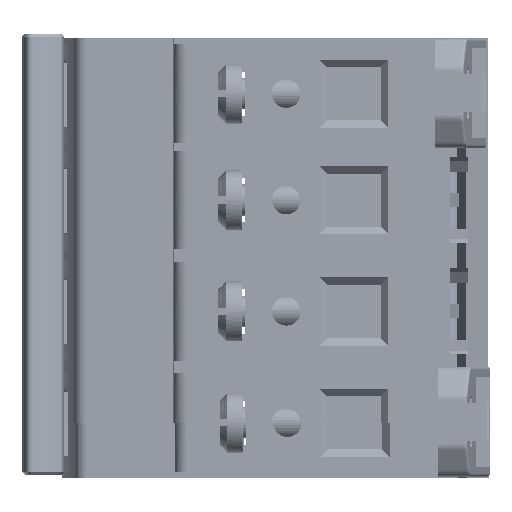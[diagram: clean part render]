
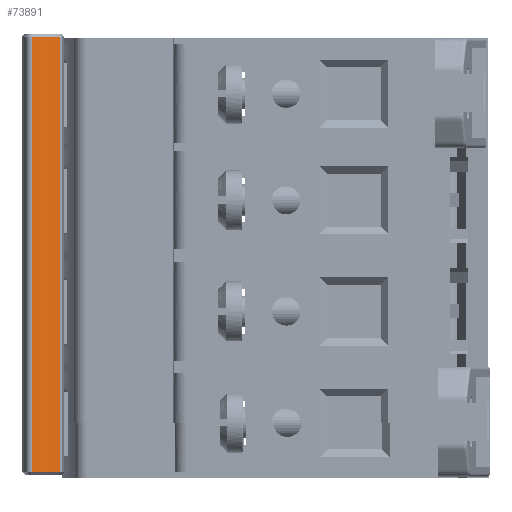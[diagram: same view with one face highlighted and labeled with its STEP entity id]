
A CAD part, left-side view. The second image highlights one B-rep face of the part: STEP entity #73891.
In plain terms, the highlighted cylindrical face has radius 8.97 mm (diameter 17.94 mm), a partial arc.
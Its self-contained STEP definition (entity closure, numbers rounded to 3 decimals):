
#96 = AXIS2_PLACEMENT_3D ( 'NONE', #80708, #29883, #89271 ) ;
#775 = VERTEX_POINT ( 'NONE', #17511 ) ;
#14813 = VECTOR ( 'NONE', #34784, 1000. ) ;
#16964 = DIRECTION ( 'NONE',  ( 0., 0., 1. ) ) ;
#17511 = CARTESIAN_POINT ( 'NONE',  ( 69.3, 7.409, 4.531 ) ) ;
#25543 = VERTEX_POINT ( 'NONE', #44157 ) ;
#28100 = CARTESIAN_POINT ( 'NONE',  ( 0.5, 2.696, 5.869 ) ) ;
#29852 = EDGE_LOOP ( 'NONE', ( #99214, #39726, #97697, #37108 ) ) ;
#29883 = DIRECTION ( 'NONE',  ( 1., 0., 0. ) ) ;
#30841 = DIRECTION ( 'NONE',  ( -1., 0., 0. ) ) ;
#34784 = DIRECTION ( 'NONE',  ( -1., 0., 0. ) ) ;
#37108 = ORIENTED_EDGE ( 'NONE', *, *, #56394, .T. ) ;
#37391 = CARTESIAN_POINT ( 'NONE',  ( 69.3, 2.696, 5.869 ) ) ;
#39726 = ORIENTED_EDGE ( 'NONE', *, *, #77987, .T. ) ;
#44157 = CARTESIAN_POINT ( 'NONE',  ( 0.5, 7.409, 4.531 ) ) ;
#46761 = VECTOR ( 'NONE', #92536, 1000. ) ;
#50053 = CIRCLE ( 'NONE', #96, 8.97 ) ;
#53472 = VERTEX_POINT ( 'NONE', #28100 ) ;
#56394 = EDGE_CURVE ( 'NONE', #25543, #53472, #50053, .T. ) ;
#66739 = CYLINDRICAL_SURFACE ( 'NONE', #108465, 8.97 ) ;
#66905 = CARTESIAN_POINT ( 'NONE',  ( 69.8, 7.409, 4.531 ) ) ;
#67763 = CARTESIAN_POINT ( 'NONE',  ( 69.8, 2.696, -3.101 ) ) ;
#68381 = EDGE_CURVE ( 'NONE', #71834, #53472, #82488, .T. ) ;
#69445 = FACE_OUTER_BOUND ( 'NONE', #29852, .T. ) ;
#71834 = VERTEX_POINT ( 'NONE', #37391 ) ;
#73766 = AXIS2_PLACEMENT_3D ( 'NONE', #81684, #30841, #90238 ) ;
#73891 = ADVANCED_FACE ( 'NONE', ( #69445 ), #66739, .T. ) ;
#74418 = EDGE_CURVE ( 'NONE', #775, #25543, #94552, .T. ) ;
#76060 = CIRCLE ( 'NONE', #73766, 8.97 ) ;
#77987 = EDGE_CURVE ( 'NONE', #71834, #775, #76060, .T. ) ;
#80708 = CARTESIAN_POINT ( 'NONE',  ( 0.5, 2.696, -3.101 ) ) ;
#81684 = CARTESIAN_POINT ( 'NONE',  ( 69.3, 2.696, -3.101 ) ) ;
#82488 = LINE ( 'NONE', #94188, #14813 ) ;
#89271 = DIRECTION ( 'NONE',  ( 0., 0., -1. ) ) ;
#90238 = DIRECTION ( 'NONE',  ( 0., 0., -1. ) ) ;
#92313 = DIRECTION ( 'NONE',  ( -1., 0., 0. ) ) ;
#92536 = DIRECTION ( 'NONE',  ( -1., 0., 0. ) ) ;
#94188 = CARTESIAN_POINT ( 'NONE',  ( 69.8, 2.696, 5.869 ) ) ;
#94552 = LINE ( 'NONE', #66905, #46761 ) ;
#97697 = ORIENTED_EDGE ( 'NONE', *, *, #74418, .T. ) ;
#99214 = ORIENTED_EDGE ( 'NONE', *, *, #68381, .F. ) ;
#108465 = AXIS2_PLACEMENT_3D ( 'NONE', #67763, #92313, #16964 ) ;
